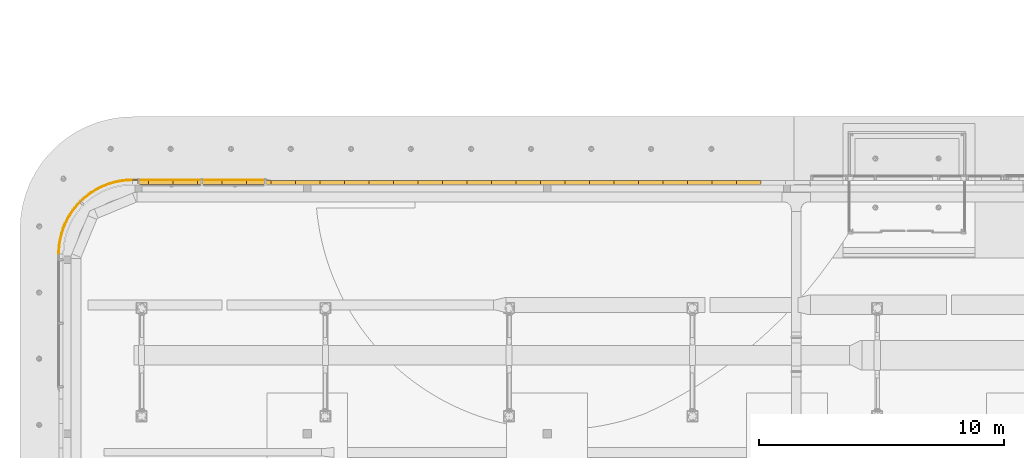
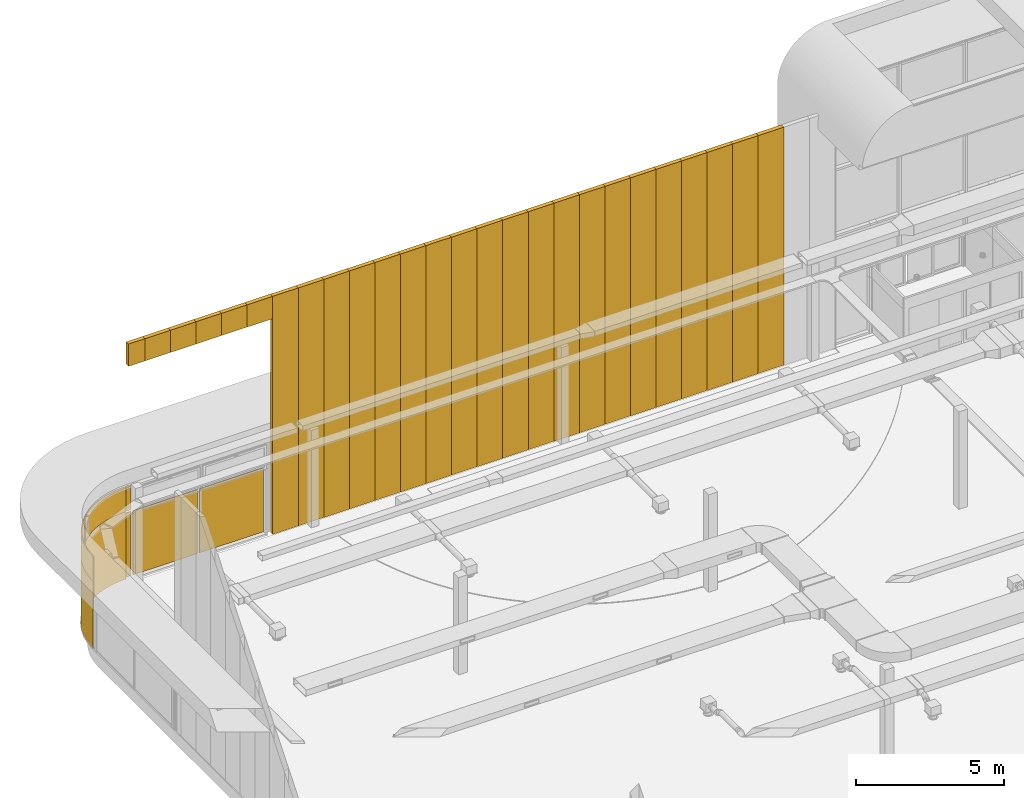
# One storey, part 229 of 302: 34 curtain walls, 3 elements without a shape of their own.
"""IFC2X3 building model written with IfcOpenShell, lengths in metres."""

from ifc_helpers import new_model, entity, si_unit, converted_unit, derived_unit, direction, frame, frame_2d, origin, place, context, subcontext, project, spatial, polyline, circle_curve, parameter, trimmed, segment, composite_curve, rectangle, outline, extrude, material, layer, layer_set, layer_usage, type_object, element, aggregate, save


model = new_model("IFC2X3")

# Units and contexts
model_context = context("Model", 3, precision=1e-05, world=origin(), true_north=direction((6.12303176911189e-17, 1.0)))
body_context = subcontext(model_context, "Body", "Model", "MODEL_VIEW")
ifc_project = project(units=[si_unit("LENGTHUNIT", "METRE"), si_unit("AREAUNIT", "SQUARE_METRE"), si_unit("VOLUMEUNIT", "CUBIC_METRE"), converted_unit("PLANEANGLEUNIT", "DEGREE", entity("IfcRatioMeasure", 0.0174532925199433), si_unit("PLANEANGLEUNIT", "RADIAN"), dimensions=[0, 0, 0, 0, 0, 0, 0]), si_unit("MASSUNIT", "GRAM", prefix="KILO"), derived_unit("MASSDENSITYUNIT", [(si_unit("MASSUNIT", "GRAM", prefix="KILO"), 1), (si_unit("LENGTHUNIT", "METRE"), -3)]), derived_unit("MOMENTOFINERTIAUNIT", [(si_unit("LENGTHUNIT", "METRE"), 4)]), si_unit("TIMEUNIT", "SECOND"), si_unit("FREQUENCYUNIT", "HERTZ"), si_unit("THERMODYNAMICTEMPERATUREUNIT", "DEGREE_CELSIUS"), derived_unit("THERMALTRANSMITTANCEUNIT", [(si_unit("MASSUNIT", "GRAM", prefix="KILO"), 1), (si_unit("THERMODYNAMICTEMPERATUREUNIT", "KELVIN"), -1), (si_unit("TIMEUNIT", "SECOND"), -3)]), derived_unit("VOLUMETRICFLOWRATEUNIT", [(si_unit("LENGTHUNIT", "METRE"), 3), (si_unit("TIMEUNIT", "SECOND"), -1)]), si_unit("ELECTRICCURRENTUNIT", "AMPERE"), si_unit("ELECTRICVOLTAGEUNIT", "VOLT"), si_unit("POWERUNIT", "WATT"), si_unit("FORCEUNIT", "NEWTON", prefix="KILO"), si_unit("ILLUMINANCEUNIT", "LUX"), si_unit("LUMINOUSFLUXUNIT", "LUMEN"), si_unit("LUMINOUSINTENSITYUNIT", "CANDELA"), derived_unit("USERDEFINED", [(si_unit("MASSUNIT", "GRAM", prefix="KILO"), -1), (si_unit("LENGTHUNIT", "METRE"), -2), (si_unit("TIMEUNIT", "SECOND"), 3), (si_unit("LUMINOUSFLUXUNIT", "LUMEN"), 1)]), derived_unit("LINEARVELOCITYUNIT", [(si_unit("LENGTHUNIT", "METRE"), 1), (si_unit("TIMEUNIT", "SECOND"), -1)]), si_unit("PRESSUREUNIT", "PASCAL"), derived_unit("USERDEFINED", [(si_unit("LENGTHUNIT", "METRE"), -2), (si_unit("MASSUNIT", "GRAM", prefix="KILO"), 1), (si_unit("TIMEUNIT", "SECOND"), -2)]), derived_unit("LINEARFORCEUNIT", [(si_unit("MASSUNIT", "GRAM", prefix="KILO"), 1), (si_unit("LENGTHUNIT", "METRE"), 1), (si_unit("TIMEUNIT", "SECOND"), -2), (si_unit("LENGTHUNIT", "METRE"), -1)]), derived_unit("PLANARFORCEUNIT", [(si_unit("MASSUNIT", "GRAM", prefix="KILO"), 1), (si_unit("LENGTHUNIT", "METRE"), 1), (si_unit("TIMEUNIT", "SECOND"), -2), (si_unit("LENGTHUNIT", "METRE"), -2)])], contexts=[model_context])

# Site, building, storey
site_placement = place(None, origin())
site = spatial("IfcSite", under=ifc_project, at=site_placement, Name="Default", CompositionType="ELEMENT")
building_placement = place(site_placement, origin())
building = spatial("IfcBuilding", under=site, at=building_placement, CompositionType="ELEMENT")
storey_placement = place(building_placement, frame((0.0, 0.0, -1.3)))
storey = spatial("IfcBuildingStorey", under=building, at=storey_placement, Name="00_EG", CompositionType="ELEMENT", Elevation=-1.3)

# Curtain walls
curtain_wall_type_1 = type_object("IfcCurtainWallType", Name="Fassade:Sandwichpaneele 16cm", PredefinedType="NOTDEFINED")
curtain_wall_1_placement = place(storey_placement, frame((0.0, 0.0, 1.3)))
curtain_wall_1 = element("IfcCurtainWall", 1, at=curtain_wall_1_placement, inside=storey, type_object=curtain_wall_type_1, Name="Fassade:Sandwichpaneele 16cm", ObjectType="Fassade:Sandwichpaneele 16cm")
ifc_material_1 = material(Name="Prepainted_Steel-ArcelorMittal_Construction_HAIRULTRA-35-CORAL-4309-[RAL_3000]")
ifc_layer_1 = layer(ifc_material_1, 0.015)
ifc_material_2 = material(Name="ArcelorMittal-MineralWool")
ifc_layer_2 = layer(ifc_material_2, 0.13)
ifc_material_3 = material(Name="Prepainted_Steel-ArcelorMittal_Construction_INTÉRIEUR-12-WHITE-912")
ifc_layer_3 = layer(ifc_material_3, 0.015)
ifc_layer_set_1 = layer_set([ifc_layer_1, ifc_layer_2, ifc_layer_3], Name="Fassade:Sandwichpaneele 16cm")
ifc_layer_usage_1 = layer_usage(ifc_layer_set_1, "AXIS2", "POSITIVE", -0.08)
curtain_wall_type_2 = type_object("IfcCurtainWallType", Name="Basiswand:Sandwichpaneele d = 16cm aussen", PredefinedType="NOTDEFINED", material=ifc_layer_set_1)
curtain_wall_2_placement = place(storey_placement, frame((-238.198861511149, 45.658088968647, 1.27), z_axis=(0.0, 0.0, 1.0), x_axis=(-1.0, 0.0, 0.0)))
curtain_wall_2 = element("IfcCurtainWall", 2, at=curtain_wall_2_placement, type_object=curtain_wall_type_2, material=ifc_layer_usage_1, Name="Basiswand:Sandwichpaneele d = 16cm aussen", ObjectType="Basiswand:Sandwichpaneele d = 16cm aussen", context=body_context, shape_type="SweptSolid", body=[
    extrude(rectangle(XDim=0.999999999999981, YDim=0.159999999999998, at=frame_2d((0.49999999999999, 0.0), x_axis=(-1.0, 0.0))), origin(), (0.0, 0.0, 1.0), 9.8509),
])
ifc_layer_usage_2 = layer_usage(ifc_layer_set_1, "AXIS2", "POSITIVE", -0.08)
curtain_wall_3_placement = place(storey_placement, frame((-239.198861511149, 45.658088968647, 1.27), z_axis=(0.0, 0.0, 1.0), x_axis=(-1.0, 0.0, 0.0)))
curtain_wall_3 = element("IfcCurtainWall", 3, at=curtain_wall_3_placement, type_object=curtain_wall_type_2, material=ifc_layer_usage_2, Name="Basiswand:Sandwichpaneele d = 16cm aussen", ObjectType="Basiswand:Sandwichpaneele d = 16cm aussen", context=body_context, shape_type="SweptSolid", body=[
    extrude(rectangle(XDim=1.00000000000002, YDim=0.159999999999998, at=frame_2d((0.500000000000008, 0.0), x_axis=(-1.0, 0.0))), origin(), (0.0, 0.0, 1.0), 9.8509),
])
ifc_layer_usage_3 = layer_usage(ifc_layer_set_1, "AXIS2", "POSITIVE", -0.08)
curtain_wall_4_placement = place(storey_placement, frame((-240.198861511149, 45.658088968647, 1.27), z_axis=(0.0, 0.0, 1.0), x_axis=(-1.0, 0.0, 0.0)))
curtain_wall_4 = element("IfcCurtainWall", 4, at=curtain_wall_4_placement, type_object=curtain_wall_type_2, material=ifc_layer_usage_3, Name="Basiswand:Sandwichpaneele d = 16cm aussen", ObjectType="Basiswand:Sandwichpaneele d = 16cm aussen", context=body_context, shape_type="SweptSolid", body=[
    extrude(rectangle(XDim=0.999999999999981, YDim=0.159999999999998, at=frame_2d((0.49999999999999, 0.0), x_axis=(-1.0, 0.0))), origin(), (0.0, 0.0, 1.0), 9.8509),
])
ifc_layer_usage_4 = layer_usage(ifc_layer_set_1, "AXIS2", "POSITIVE", -0.08)
curtain_wall_5_placement = place(storey_placement, frame((-241.198861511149, 45.658088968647, 1.27), z_axis=(0.0, 0.0, 1.0), x_axis=(-1.0, 0.0, 0.0)))
curtain_wall_5 = element("IfcCurtainWall", 5, at=curtain_wall_5_placement, type_object=curtain_wall_type_2, material=ifc_layer_usage_4, Name="Basiswand:Sandwichpaneele d = 16cm aussen", ObjectType="Basiswand:Sandwichpaneele d = 16cm aussen", context=body_context, shape_type="SweptSolid", body=[
    extrude(rectangle(XDim=1.00000000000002, YDim=0.159999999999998, at=frame_2d((0.500000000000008, 0.0), x_axis=(-1.0, 0.0))), origin(), (0.0, 0.0, 1.0), 9.8509),
])
ifc_layer_usage_5 = layer_usage(ifc_layer_set_1, "AXIS2", "POSITIVE", -0.08)
curtain_wall_6_placement = place(storey_placement, frame((-242.198861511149, 45.658088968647, 1.27), z_axis=(0.0, 0.0, 1.0), x_axis=(-1.0, 0.0, 0.0)))
curtain_wall_6 = element("IfcCurtainWall", 6, at=curtain_wall_6_placement, type_object=curtain_wall_type_2, material=ifc_layer_usage_5, Name="Basiswand:Sandwichpaneele d = 16cm aussen", ObjectType="Basiswand:Sandwichpaneele d = 16cm aussen", context=body_context, shape_type="SweptSolid", body=[
    extrude(rectangle(XDim=0.999999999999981, YDim=0.159999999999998, at=frame_2d((0.49999999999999, 0.0), x_axis=(-1.0, 0.0))), origin(), (0.0, 0.0, 1.0), 9.8509),
])
ifc_layer_usage_6 = layer_usage(ifc_layer_set_1, "AXIS2", "POSITIVE", -0.08)
curtain_wall_7_placement = place(storey_placement, frame((-243.198861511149, 45.658088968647, 1.27), z_axis=(0.0, 0.0, 1.0), x_axis=(-1.0, 0.0, 0.0)))
curtain_wall_7 = element("IfcCurtainWall", 7, at=curtain_wall_7_placement, type_object=curtain_wall_type_2, material=ifc_layer_usage_6, Name="Basiswand:Sandwichpaneele d = 16cm aussen", ObjectType="Basiswand:Sandwichpaneele d = 16cm aussen", context=body_context, shape_type="SweptSolid", body=[
    extrude(rectangle(XDim=1.00000000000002, YDim=0.159999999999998, at=frame_2d((0.500000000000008, 0.0), x_axis=(-1.0, 0.0))), origin(), (0.0, 0.0, 1.0), 9.8509),
])
ifc_layer_usage_7 = layer_usage(ifc_layer_set_1, "AXIS2", "POSITIVE", -0.08)
curtain_wall_8_placement = place(storey_placement, frame((-244.198861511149, 45.658088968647, 1.27), z_axis=(0.0, 0.0, 1.0), x_axis=(-1.0, 0.0, 0.0)))
curtain_wall_8 = element("IfcCurtainWall", 8, at=curtain_wall_8_placement, type_object=curtain_wall_type_2, material=ifc_layer_usage_7, Name="Basiswand:Sandwichpaneele d = 16cm aussen", ObjectType="Basiswand:Sandwichpaneele d = 16cm aussen", context=body_context, shape_type="SweptSolid", body=[
    extrude(rectangle(XDim=1.00000000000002, YDim=0.159999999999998, at=frame_2d((0.500000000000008, 0.0), x_axis=(-1.0, 0.0))), origin(), (0.0, 0.0, 1.0), 9.8509),
])
ifc_layer_usage_8 = layer_usage(ifc_layer_set_1, "AXIS2", "POSITIVE", -0.08)
curtain_wall_9_placement = place(storey_placement, frame((-245.198861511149, 45.658088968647, 1.27), z_axis=(0.0, 0.0, 1.0), x_axis=(-1.0, 0.0, 0.0)))
curtain_wall_9 = element("IfcCurtainWall", 9, at=curtain_wall_9_placement, type_object=curtain_wall_type_2, material=ifc_layer_usage_8, Name="Basiswand:Sandwichpaneele d = 16cm aussen", ObjectType="Basiswand:Sandwichpaneele d = 16cm aussen", context=body_context, shape_type="SweptSolid", body=[
    extrude(rectangle(XDim=0.999999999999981, YDim=0.159999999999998, at=frame_2d((0.49999999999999, 0.0), x_axis=(-1.0, 0.0))), origin(), (0.0, 0.0, 1.0), 9.8509),
])
ifc_layer_usage_9 = layer_usage(ifc_layer_set_1, "AXIS2", "POSITIVE", -0.08)
curtain_wall_10_placement = place(storey_placement, frame((-246.198861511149, 45.658088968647, 1.27), z_axis=(0.0, 0.0, 1.0), x_axis=(-1.0, 0.0, 0.0)))
curtain_wall_10 = element("IfcCurtainWall", 10, at=curtain_wall_10_placement, type_object=curtain_wall_type_2, material=ifc_layer_usage_9, Name="Basiswand:Sandwichpaneele d = 16cm aussen", ObjectType="Basiswand:Sandwichpaneele d = 16cm aussen", context=body_context, shape_type="SweptSolid", body=[
    extrude(rectangle(XDim=1.00000000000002, YDim=0.159999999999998, at=frame_2d((0.500000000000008, 0.0), x_axis=(-1.0, 0.0))), origin(), (0.0, 0.0, 1.0), 9.8509),
])
ifc_layer_usage_10 = layer_usage(ifc_layer_set_1, "AXIS2", "POSITIVE", -0.08)
curtain_wall_11_placement = place(storey_placement, frame((-247.198861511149, 45.658088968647, 1.27), z_axis=(0.0, 0.0, 1.0), x_axis=(-1.0, 0.0, 0.0)))
curtain_wall_11 = element("IfcCurtainWall", 11, at=curtain_wall_11_placement, type_object=curtain_wall_type_2, material=ifc_layer_usage_10, Name="Basiswand:Sandwichpaneele d = 16cm aussen", ObjectType="Basiswand:Sandwichpaneele d = 16cm aussen", context=body_context, shape_type="SweptSolid", body=[
    extrude(rectangle(XDim=0.999999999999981, YDim=0.159999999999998, at=frame_2d((0.49999999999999, 0.0), x_axis=(-1.0, 0.0))), origin(), (0.0, 0.0, 1.0), 9.8509),
])
ifc_layer_usage_11 = layer_usage(ifc_layer_set_1, "AXIS2", "POSITIVE", -0.08)
curtain_wall_12_placement = place(storey_placement, frame((-248.198861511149, 45.658088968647, 1.27), z_axis=(0.0, 0.0, 1.0), x_axis=(-1.0, 0.0, 0.0)))
curtain_wall_12 = element("IfcCurtainWall", 12, at=curtain_wall_12_placement, type_object=curtain_wall_type_2, material=ifc_layer_usage_11, Name="Basiswand:Sandwichpaneele d = 16cm aussen", ObjectType="Basiswand:Sandwichpaneele d = 16cm aussen", context=body_context, shape_type="SweptSolid", body=[
    extrude(rectangle(XDim=1.00000000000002, YDim=0.159999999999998, at=frame_2d((0.500000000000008, 0.0), x_axis=(-1.0, 0.0))), origin(), (0.0, 0.0, 1.0), 9.8509),
])
ifc_layer_usage_12 = layer_usage(ifc_layer_set_1, "AXIS2", "POSITIVE", -0.08)
curtain_wall_13_placement = place(storey_placement, frame((-249.198861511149, 45.658088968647, 1.27), z_axis=(0.0, 0.0, 1.0), x_axis=(-1.0, 0.0, 0.0)))
curtain_wall_13 = element("IfcCurtainWall", 13, at=curtain_wall_13_placement, type_object=curtain_wall_type_2, material=ifc_layer_usage_12, Name="Basiswand:Sandwichpaneele d = 16cm aussen", ObjectType="Basiswand:Sandwichpaneele d = 16cm aussen", context=body_context, shape_type="SweptSolid", body=[
    extrude(rectangle(XDim=0.999999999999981, YDim=0.159999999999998, at=frame_2d((0.49999999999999, 0.0), x_axis=(-1.0, 0.0))), origin(), (0.0, 0.0, 1.0), 9.8509),
])
ifc_layer_usage_13 = layer_usage(ifc_layer_set_1, "AXIS2", "POSITIVE", -0.08)
curtain_wall_14_placement = place(storey_placement, frame((-250.198861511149, 45.658088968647, 1.27), z_axis=(0.0, 0.0, 1.0), x_axis=(-1.0, 0.0, 0.0)))
curtain_wall_14 = element("IfcCurtainWall", 14, at=curtain_wall_14_placement, type_object=curtain_wall_type_2, material=ifc_layer_usage_13, Name="Basiswand:Sandwichpaneele d = 16cm aussen", ObjectType="Basiswand:Sandwichpaneele d = 16cm aussen", context=body_context, shape_type="SweptSolid", body=[
    extrude(rectangle(XDim=1.00000000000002, YDim=0.159999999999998, at=frame_2d((0.500000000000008, 0.0), x_axis=(-1.0, 0.0))), origin(), (0.0, 0.0, 1.0), 9.8509),
])
ifc_layer_usage_14 = layer_usage(ifc_layer_set_1, "AXIS2", "POSITIVE", -0.08)
curtain_wall_15_placement = place(storey_placement, frame((-251.198861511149, 45.658088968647, 1.27), z_axis=(0.0, 0.0, 1.0), x_axis=(-1.0, 0.0, 0.0)))
curtain_wall_15 = element("IfcCurtainWall", 15, at=curtain_wall_15_placement, type_object=curtain_wall_type_2, material=ifc_layer_usage_14, Name="Basiswand:Sandwichpaneele d = 16cm aussen", ObjectType="Basiswand:Sandwichpaneele d = 16cm aussen", context=body_context, shape_type="SweptSolid", body=[
    extrude(rectangle(XDim=1.00000000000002, YDim=0.159999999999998, at=frame_2d((0.500000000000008, 0.0), x_axis=(-1.0, 0.0))), origin(), (0.0, 0.0, 1.0), 9.8509),
])
ifc_layer_usage_15 = layer_usage(ifc_layer_set_1, "AXIS2", "POSITIVE", -0.08)
curtain_wall_16_placement = place(storey_placement, frame((-252.198861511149, 45.658088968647, 1.27), z_axis=(0.0, 0.0, 1.0), x_axis=(-1.0, 0.0, 0.0)))
curtain_wall_16 = element("IfcCurtainWall", 16, at=curtain_wall_16_placement, type_object=curtain_wall_type_2, material=ifc_layer_usage_15, Name="Basiswand:Sandwichpaneele d = 16cm aussen", ObjectType="Basiswand:Sandwichpaneele d = 16cm aussen", context=body_context, shape_type="SweptSolid", body=[
    extrude(rectangle(XDim=0.999999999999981, YDim=0.159999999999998, at=frame_2d((0.49999999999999, 0.0), x_axis=(-1.0, 0.0))), origin(), (0.0, 0.0, 1.0), 9.8509),
])
ifc_layer_usage_16 = layer_usage(ifc_layer_set_1, "AXIS2", "POSITIVE", -0.08)
curtain_wall_17_placement = place(storey_placement, frame((-253.198861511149, 45.658088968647, 1.27), z_axis=(0.0, 0.0, 1.0), x_axis=(-1.0, 0.0, 0.0)))
curtain_wall_17 = element("IfcCurtainWall", 17, at=curtain_wall_17_placement, type_object=curtain_wall_type_2, material=ifc_layer_usage_16, Name="Basiswand:Sandwichpaneele d = 16cm aussen", ObjectType="Basiswand:Sandwichpaneele d = 16cm aussen", context=body_context, shape_type="SweptSolid", body=[
    extrude(rectangle(XDim=1.00000000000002, YDim=0.159999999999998, at=frame_2d((0.500000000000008, 0.0), x_axis=(-1.0, 0.0))), origin(), (0.0, 0.0, 1.0), 9.8509),
])
ifc_layer_usage_17 = layer_usage(ifc_layer_set_1, "AXIS2", "POSITIVE", -0.08)
curtain_wall_18_placement = place(storey_placement, frame((-254.198861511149, 45.658088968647, 1.27), z_axis=(0.0, 0.0, 1.0), x_axis=(-1.0, 0.0, 0.0)))
curtain_wall_18 = element("IfcCurtainWall", 18, at=curtain_wall_18_placement, type_object=curtain_wall_type_2, material=ifc_layer_usage_17, Name="Basiswand:Sandwichpaneele d = 16cm aussen", ObjectType="Basiswand:Sandwichpaneele d = 16cm aussen", context=body_context, shape_type="SweptSolid", body=[
    extrude(rectangle(XDim=0.999999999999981, YDim=0.159999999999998, at=frame_2d((0.49999999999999, 0.0), x_axis=(-1.0, 0.0))), origin(), (0.0, 0.0, 1.0), 9.8509),
])
ifc_layer_usage_18 = layer_usage(ifc_layer_set_1, "AXIS2", "POSITIVE", -0.08)
curtain_wall_19_placement = place(storey_placement, frame((-255.198861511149, 45.658088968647, 1.27), z_axis=(0.0, 0.0, 1.0), x_axis=(-1.0, 0.0, 0.0)))
curtain_wall_19 = element("IfcCurtainWall", 19, at=curtain_wall_19_placement, type_object=curtain_wall_type_2, material=ifc_layer_usage_18, Name="Basiswand:Sandwichpaneele d = 16cm aussen", ObjectType="Basiswand:Sandwichpaneele d = 16cm aussen", context=body_context, shape_type="SweptSolid", body=[
    extrude(rectangle(XDim=1.00000000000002, YDim=0.159999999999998, at=frame_2d((0.500000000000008, 0.0), x_axis=(-1.0, 0.0))), origin(), (0.0, 0.0, 1.0), 9.8509),
])
ifc_layer_usage_19 = layer_usage(ifc_layer_set_1, "AXIS2", "POSITIVE", -0.08)
curtain_wall_20_placement = place(storey_placement, frame((-256.198861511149, 45.658088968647, 1.27), z_axis=(0.0, 0.0, 1.0), x_axis=(-1.0, 0.0, 0.0)))
curtain_wall_20 = element("IfcCurtainWall", 20, at=curtain_wall_20_placement, type_object=curtain_wall_type_2, material=ifc_layer_usage_19, Name="Basiswand:Sandwichpaneele d = 16cm aussen", ObjectType="Basiswand:Sandwichpaneele d = 16cm aussen", context=body_context, shape_type="SweptSolid", body=[
    extrude(rectangle(XDim=0.999999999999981, YDim=0.159999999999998, at=frame_2d((0.49999999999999, 0.0), x_axis=(-1.0, 0.0))), origin(), (0.0, 0.0, 1.0), 9.8509),
])
ifc_layer_usage_20 = layer_usage(ifc_layer_set_1, "AXIS2", "POSITIVE", -0.08)
curtain_wall_21_placement = place(storey_placement, frame((-257.198861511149, 45.658088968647, 1.27), z_axis=(0.0, 0.0, 1.0), x_axis=(-1.0, 0.0, 0.0)))
curtain_wall_21 = element("IfcCurtainWall", 21, at=curtain_wall_21_placement, type_object=curtain_wall_type_2, material=ifc_layer_usage_20, Name="Basiswand:Sandwichpaneele d = 16cm aussen", ObjectType="Basiswand:Sandwichpaneele d = 16cm aussen", context=body_context, shape_type="SweptSolid", body=[
    extrude(rectangle(XDim=1.00000000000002, YDim=0.159999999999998, at=frame_2d((0.500000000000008, 0.0), x_axis=(-1.0, 0.0))), origin(), (0.0, 0.0, 1.0), 9.8509),
])
ifc_layer_usage_21 = layer_usage(ifc_layer_set_1, "AXIS2", "POSITIVE", -0.08)
curtain_wall_22_placement = place(storey_placement, frame((-258.198861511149, 45.658088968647, 10.2), z_axis=(0.0, 0.0, 1.0), x_axis=(-1.0, 0.0, 0.0)))
curtain_wall_22 = element("IfcCurtainWall", 22, at=curtain_wall_22_placement, type_object=curtain_wall_type_2, material=ifc_layer_usage_21, Name="Basiswand:Sandwichpaneele d = 16cm aussen", ObjectType="Basiswand:Sandwichpaneele d = 16cm aussen", context=body_context, shape_type="SweptSolid", body=[
    extrude(rectangle(XDim=0.999999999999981, YDim=0.159999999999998, at=frame_2d((0.49999999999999, 0.0), x_axis=(-1.0, 0.0))), origin(), (0.0, 0.0, 1.0), 0.920900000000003),
])
ifc_layer_usage_22 = layer_usage(ifc_layer_set_1, "AXIS2", "POSITIVE", -0.08)
curtain_wall_23_placement = place(storey_placement, frame((-259.198861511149, 45.658088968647, 10.2), z_axis=(0.0, 0.0, 1.0), x_axis=(-1.0, 0.0, 0.0)))
curtain_wall_23 = element("IfcCurtainWall", 23, at=curtain_wall_23_placement, type_object=curtain_wall_type_2, material=ifc_layer_usage_22, Name="Basiswand:Sandwichpaneele d = 16cm aussen", ObjectType="Basiswand:Sandwichpaneele d = 16cm aussen", context=body_context, shape_type="SweptSolid", body=[
    extrude(rectangle(XDim=1.00000000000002, YDim=0.159999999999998, at=frame_2d((0.500000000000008, 0.0), x_axis=(-1.0, 0.0))), origin(), (0.0, 0.0, 1.0), 0.920900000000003),
])
ifc_layer_usage_23 = layer_usage(ifc_layer_set_1, "AXIS2", "POSITIVE", -0.08)
curtain_wall_24_placement = place(storey_placement, frame((-260.198861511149, 45.658088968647, 10.2), z_axis=(0.0, 0.0, 1.0), x_axis=(-1.0, 0.0, 0.0)))
curtain_wall_24 = element("IfcCurtainWall", 24, at=curtain_wall_24_placement, type_object=curtain_wall_type_2, material=ifc_layer_usage_23, Name="Basiswand:Sandwichpaneele d = 16cm aussen", ObjectType="Basiswand:Sandwichpaneele d = 16cm aussen", context=body_context, shape_type="SweptSolid", body=[
    extrude(rectangle(XDim=0.999999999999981, YDim=0.159999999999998, at=frame_2d((0.49999999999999, 0.0), x_axis=(-1.0, 0.0))), origin(), (0.0, 0.0, 1.0), 0.920900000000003),
])
ifc_layer_usage_24 = layer_usage(ifc_layer_set_1, "AXIS2", "POSITIVE", -0.08)
curtain_wall_25_placement = place(storey_placement, frame((-261.198861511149, 45.658088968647, 10.2), z_axis=(0.0, 0.0, 1.0), x_axis=(-1.0, 0.0, 0.0)))
curtain_wall_25 = element("IfcCurtainWall", 25, at=curtain_wall_25_placement, type_object=curtain_wall_type_2, material=ifc_layer_usage_24, Name="Basiswand:Sandwichpaneele d = 16cm aussen", ObjectType="Basiswand:Sandwichpaneele d = 16cm aussen", context=body_context, shape_type="SweptSolid", body=[
    extrude(rectangle(XDim=1.00000000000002, YDim=0.159999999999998, at=frame_2d((0.500000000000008, 0.0), x_axis=(-1.0, 0.0))), origin(), (0.0, 0.0, 1.0), 0.920900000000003),
])
ifc_layer_usage_25 = layer_usage(ifc_layer_set_1, "AXIS2", "POSITIVE", -0.08)
curtain_wall_26_placement = place(storey_placement, frame((-262.198861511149, 45.658088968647, 10.2), z_axis=(0.0, 0.0, 1.0), x_axis=(-1.0, 0.0, 0.0)))
curtain_wall_26 = element("IfcCurtainWall", 26, at=curtain_wall_26_placement, type_object=curtain_wall_type_2, material=ifc_layer_usage_25, Name="Basiswand:Sandwichpaneele d = 16cm aussen", ObjectType="Basiswand:Sandwichpaneele d = 16cm aussen", context=body_context, shape_type="SweptSolid", body=[
    extrude(rectangle(XDim=0.999999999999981, YDim=0.159999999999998, at=frame_2d((0.49999999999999, 0.0), x_axis=(-1.0, 0.0))), origin(), (0.0, 0.0, 1.0), 0.920900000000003),
])
ifc_layer_usage_26 = layer_usage(ifc_layer_set_1, "AXIS2", "POSITIVE", -0.08)
curtain_wall_27_placement = place(storey_placement, frame((-263.198861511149, 45.658088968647, 10.2), z_axis=(0.0, 0.0, 1.0), x_axis=(-1.0, 0.0, 0.0)))
curtain_wall_27 = element("IfcCurtainWall", 27, at=curtain_wall_27_placement, type_object=curtain_wall_type_2, material=ifc_layer_usage_26, Name="Basiswand:Sandwichpaneele d = 16cm aussen", ObjectType="Basiswand:Sandwichpaneele d = 16cm aussen", context=body_context, shape_type="SweptSolid", body=[
    extrude(rectangle(XDim=0.641249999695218, YDim=0.159999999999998, at=frame_2d((0.320624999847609, 0.0), x_axis=(-1.0, 0.0))), origin(), (0.0, 0.0, 1.0), 0.920900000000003),
])
aggregate(curtain_wall_1, [curtain_wall_2, curtain_wall_3, curtain_wall_4, curtain_wall_5, curtain_wall_6, curtain_wall_7, curtain_wall_8, curtain_wall_9, curtain_wall_10, curtain_wall_11, curtain_wall_12, curtain_wall_13, curtain_wall_14, curtain_wall_15, curtain_wall_16, curtain_wall_17, curtain_wall_18, curtain_wall_19, curtain_wall_20, curtain_wall_21, curtain_wall_22, curtain_wall_23, curtain_wall_24, curtain_wall_25, curtain_wall_26, curtain_wall_27])

curtain_wall_type_3 = type_object("IfcCurtainWallType", Name="Fassade:Glasfassade", PredefinedType="NOTDEFINED")
curtain_wall_28_placement = place(storey_placement, frame((0.0, 0.0, 1.3)))
curtain_wall_28 = element("IfcCurtainWall", 28, at=curtain_wall_28_placement, inside=storey, type_object=curtain_wall_type_3, Name="Fassade:Glasfassade", ObjectType="Fassade:Glasfassade")
ifc_material_4 = material(Name="Glass")
ifc_layer_4 = layer(ifc_material_4, 0.035)
ifc_layer_set_2 = layer_set([ifc_layer_4], Name="Fassade:Sandwichpaneele 16cm")
ifc_layer_usage_27 = layer_usage(ifc_layer_set_2, "AXIS2", "NEGATIVE", 0.0175)
curtain_wall_type_4 = type_object("IfcCurtainWallType", Name="Basiswand:Glass", PredefinedType="NOTDEFINED", material=ifc_layer_set_2)
curtain_wall_29_placement = place(storey_placement, frame((-263.840111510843, 45.755588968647, 1.37999999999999)))
curtain_wall_29 = element("IfcCurtainWall", 29, at=curtain_wall_29_placement, type_object=curtain_wall_type_4, material=ifc_layer_usage_27, Name="Basiswand:Glass", ObjectType="Basiswand:Glass", context=body_context, shape_type="SweptSolid", body=[
    extrude(rectangle(XDim=0.19399786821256, YDim=0.034999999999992, at=frame_2d((0.0969989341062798, 0.0), x_axis=(-1.0, 0.0))), origin(), (0.0, 0.0, 1.0), 2.64999999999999),
])
ifc_layer_usage_28 = layer_usage(ifc_layer_set_2, "AXIS2", "NEGATIVE", 0.0175)
curtain_wall_30_placement = place(storey_placement, frame((-263.56611364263, 45.755588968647, 1.37999999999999)))
curtain_wall_30 = element("IfcCurtainWall", 30, at=curtain_wall_30_placement, type_object=curtain_wall_type_4, material=ifc_layer_usage_28, Name="Basiswand:Glass", ObjectType="Basiswand:Glass", context=body_context, shape_type="SweptSolid", body=[
    extrude(rectangle(XDim=2.51000000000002, YDim=0.034999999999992, at=frame_2d((1.25500000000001, 0.0), x_axis=(-1.0, 0.0))), origin(), (0.0, 0.0, 1.0), 2.64999999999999),
])
ifc_layer_usage_29 = layer_usage(ifc_layer_set_2, "AXIS2", "NEGATIVE", 0.0175)
curtain_wall_31_placement = place(storey_placement, frame((-260.97611364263, 45.755588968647, 1.37999999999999)))
curtain_wall_31 = element("IfcCurtainWall", 31, at=curtain_wall_31_placement, type_object=curtain_wall_type_4, material=ifc_layer_usage_29, Name="Basiswand:Glass", ObjectType="Basiswand:Glass", context=body_context, shape_type="SweptSolid", body=[
    extrude(rectangle(XDim=2.51000000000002, YDim=0.034999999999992, at=frame_2d((1.25500000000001, 0.0), x_axis=(-1.0, 0.0))), origin(), (0.0, 0.0, 1.0), 2.64999999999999),
])
ifc_layer_usage_30 = layer_usage(ifc_layer_set_2, "AXIS2", "NEGATIVE", 0.0175)
curtain_wall_32_placement = place(storey_placement, frame((-263.840111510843, 45.755588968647, 4.10999999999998)))
curtain_wall_32 = element("IfcCurtainWall", 32, at=curtain_wall_32_placement, type_object=curtain_wall_type_4, material=ifc_layer_usage_30, Name="Basiswand:Glass", ObjectType="Basiswand:Glass", context=body_context, shape_type="SweptSolid", body=[
    extrude(rectangle(XDim=0.19399786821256, YDim=0.034999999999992, at=frame_2d((0.0969989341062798, 0.0), x_axis=(-1.0, 0.0))), origin(), (0.0, 0.0, 1.0), 1.02000000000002),
])
aggregate(curtain_wall_28, [curtain_wall_29, curtain_wall_30, curtain_wall_31, curtain_wall_32])

curtain_wall_33_placement = place(storey_placement, frame((0.0, 0.0, 1.3)))
curtain_wall_33 = element("IfcCurtainWall", 33, at=curtain_wall_33_placement, inside=storey, type_object=curtain_wall_type_3, Name="Fassade:Glasfassade", ObjectType="Fassade:Glasfassade")
ifc_layer_usage_31 = layer_usage(ifc_layer_set_2, "AXIS2", "POSITIVE", -0.0175)
curtain_wall_34_placement = place(storey_placement, frame((-263.840111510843, 45.7555889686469, 1.3)))
curtain_wall_34 = element("IfcCurtainWall", 34, at=curtain_wall_34_placement, type_object=curtain_wall_type_4, material=ifc_layer_usage_31, Name="Basiswand:Glass", ObjectType="Basiswand:Glass", context=body_context, shape_type="SweptSolid", body=[
    extrude(outline(composite_curve([segment(trimmed(circle_curve(frame_2d((0.0, -3.01750000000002), x_axis=(1.0, 0.0)), 3.00000000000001), [parameter(90.0000000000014)], [parameter(134.250447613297)], True, "PARAMETER"), False, "CONTINUOUS"), segment(polyline([(0.0, -0.0175000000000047), (0.0, 0.017499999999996)]), True, "CONTINUOUS"), segment(trimmed(circle_curve(frame_2d((0.0, -3.01750000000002), x_axis=(1.0, 0.0)), 3.03500000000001), [parameter(90.0000000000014)], [parameter(134.250447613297)], True, "PARAMETER"), True, "CONTINUOUS"), segment(polyline([(-2.11781102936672, -0.843540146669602), (-2.0933881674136, -0.868610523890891)]), True, "CONTINUOUS")], self_intersect=False)), origin(), (0.0, 0.0, 1.0), 2.79999999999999),
])
ifc_layer_usage_32 = layer_usage(ifc_layer_set_2, "AXIS2", "POSITIVE", -0.0175)
curtain_wall_35_placement = place(storey_placement, frame((-265.996872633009, 44.8484651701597, 1.3)))
curtain_wall_35 = element("IfcCurtainWall", 35, at=curtain_wall_35_placement, type_object=curtain_wall_type_4, material=ifc_layer_usage_32, Name="Basiswand:Glass", ObjectType="Basiswand:Glass", context=body_context, shape_type="SweptSolid", body=[
    extrude(outline(composite_curve([segment(trimmed(circle_curve(frame_2d((2.15676112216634, -2.11037620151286), x_axis=(1.0, 0.0)), 3.00000000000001), [parameter(135.622795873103)], [parameter(180.0)], True, "PARAMETER"), False, "CONTINUOUS"), segment(polyline([(0.0125081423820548, -0.0122391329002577), (-0.0125081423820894, 0.0122391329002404)]), True, "CONTINUOUS"), segment(trimmed(circle_curve(frame_2d((2.15676112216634, -2.11037620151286), x_axis=(1.0, 0.0)), 3.03500000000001), [parameter(135.622795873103)], [parameter(180.0)], True, "PARAMETER"), True, "CONTINUOUS"), segment(polyline([(-0.87823887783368, -2.11037620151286), (-0.843238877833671, -2.11037620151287)]), True, "CONTINUOUS")], self_intersect=False)), origin(), (0.0, 0.0, 1.0), 2.79999999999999),
])
ifc_layer_usage_33 = layer_usage(ifc_layer_set_2, "AXIS2", "POSITIVE", -0.0175)
curtain_wall_36_placement = place(storey_placement, frame((-263.840111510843, 45.7555889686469, 4.09999999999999)))
curtain_wall_36 = element("IfcCurtainWall", 36, at=curtain_wall_36_placement, type_object=curtain_wall_type_4, material=ifc_layer_usage_33, Name="Basiswand:Glass", ObjectType="Basiswand:Glass", context=body_context, shape_type="SweptSolid", body=[
    extrude(outline(composite_curve([segment(trimmed(circle_curve(frame_2d((0.0, -3.01750000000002), x_axis=(1.0, 0.0)), 3.00000000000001), [parameter(90.0000000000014)], [parameter(134.250447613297)], True, "PARAMETER"), False, "CONTINUOUS"), segment(polyline([(0.0, -0.0175000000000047), (0.0, 0.017499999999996)]), True, "CONTINUOUS"), segment(trimmed(circle_curve(frame_2d((0.0, -3.01750000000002), x_axis=(1.0, 0.0)), 3.03500000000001), [parameter(90.0000000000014)], [parameter(134.250447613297)], True, "PARAMETER"), True, "CONTINUOUS"), segment(polyline([(-2.11781102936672, -0.843540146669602), (-2.0933881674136, -0.868610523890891)]), True, "CONTINUOUS")], self_intersect=False)), origin(), (0.0, 0.0, 1.0), 1.03),
])
ifc_layer_usage_34 = layer_usage(ifc_layer_set_2, "AXIS2", "POSITIVE", -0.0175)
curtain_wall_37_placement = place(storey_placement, frame((-265.996872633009, 44.8484651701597, 4.09999999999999)))
curtain_wall_37 = element("IfcCurtainWall", 37, at=curtain_wall_37_placement, type_object=curtain_wall_type_4, material=ifc_layer_usage_34, Name="Basiswand:Glass", ObjectType="Basiswand:Glass", context=body_context, shape_type="SweptSolid", body=[
    extrude(outline(composite_curve([segment(trimmed(circle_curve(frame_2d((2.15676112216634, -2.11037620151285), x_axis=(1.0, 0.0)), 3.00000000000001), [parameter(135.622795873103)], [parameter(180.0)], True, "PARAMETER"), False, "CONTINUOUS"), segment(polyline([(0.0125081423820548, -0.0122391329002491), (-0.0125081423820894, 0.0122391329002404)]), True, "CONTINUOUS"), segment(trimmed(circle_curve(frame_2d((2.15676112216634, -2.11037620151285), x_axis=(1.0, 0.0)), 3.03500000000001), [parameter(135.622795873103)], [parameter(180.0)], True, "PARAMETER"), True, "CONTINUOUS"), segment(polyline([(-0.87823887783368, -2.11037620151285), (-0.843238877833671, -2.11037620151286)]), True, "CONTINUOUS")], self_intersect=False)), origin(), (0.0, 0.0, 1.0), 1.03),
])
aggregate(curtain_wall_33, [curtain_wall_34, curtain_wall_35, curtain_wall_36, curtain_wall_37])

save(model, "model.ifc")
